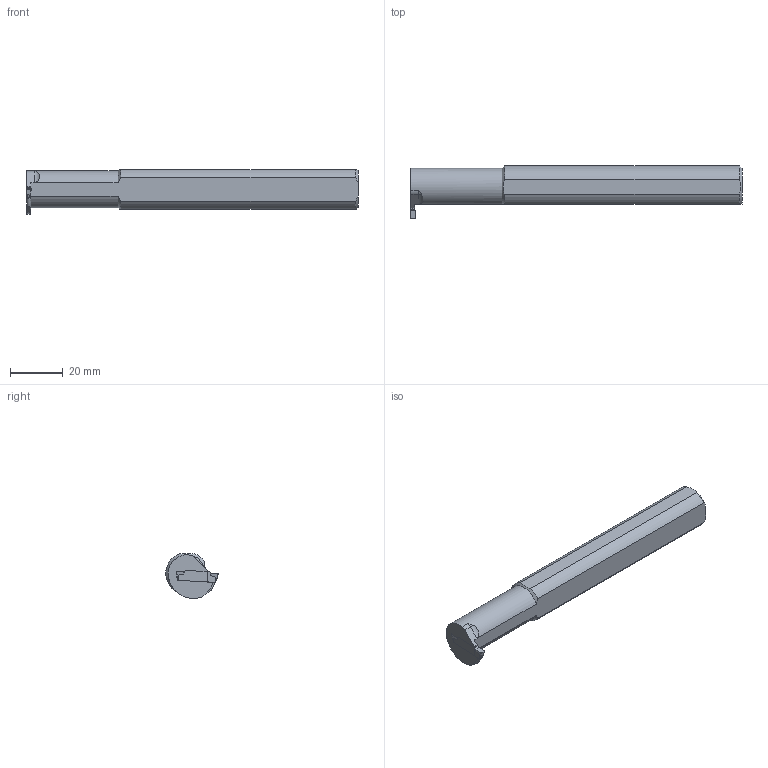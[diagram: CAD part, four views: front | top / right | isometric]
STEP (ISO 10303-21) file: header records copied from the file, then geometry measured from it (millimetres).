
FILE_DESCRIPTION(/* description */ (''),/* implementation_level */ '2;1');
FILE_NAME(/* name */ 'MGIVR2016-2-HAAS.stp',/* time_stamp */ '2021-10-15T15:36:04+09:00',/* author */ (''),/* organization */ (''),/* preprocessor_version */ 'ST-DEVELOPER v16.7',/* originating_system */ 'SIEMENS PLM Software NX 1946',/* authorisation */ '');
FILE_SCHEMA (('AUTOMOTIVE_DESIGN { 1 0 10303 214 3 1 1 1 }'));
Length unit declared in the file: millimetre
Products named in the file (1): user608C7480075q
Bounding box: 126.25 x 19.95 x 17 mm (x, y, z)
Volume: 22675.9 mm3; surface area: 6669.5 mm2
Topology: 2 solids, 2 shells, 58 faces, 157 edges, 104 vertices
Faces by surface type: plane 35, cylinder 19, torus 2, cone 2
Entity records: 1958 total; most frequent: CARTESIAN_POINT 436, ORIENTED_EDGE 314, DIRECTION 300, EDGE_CURVE 157, VERTEX_POINT 103, AXIS2_PLACEMENT_3D 102, LINE 96, VECTOR 96
